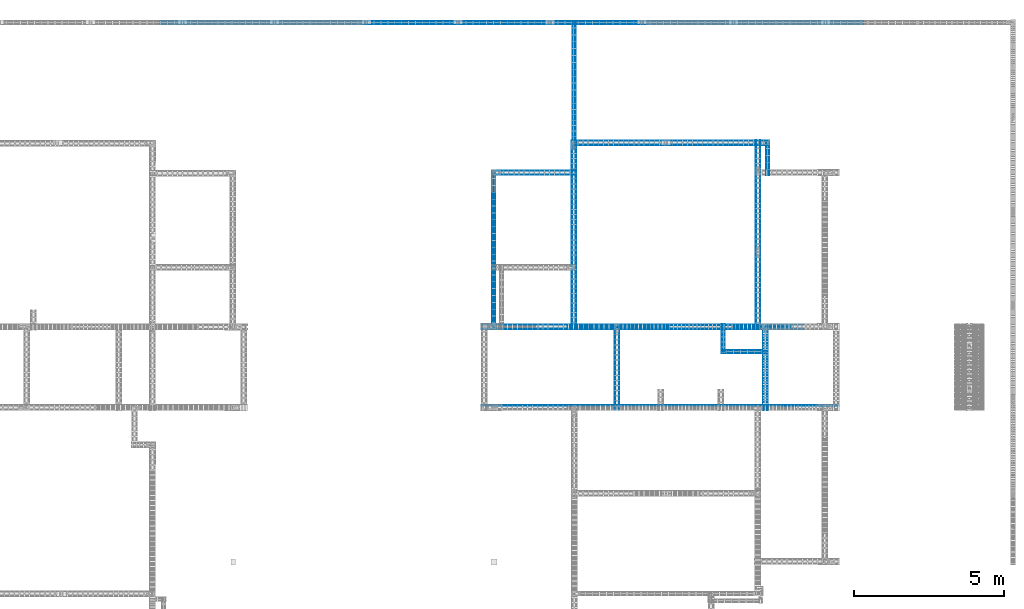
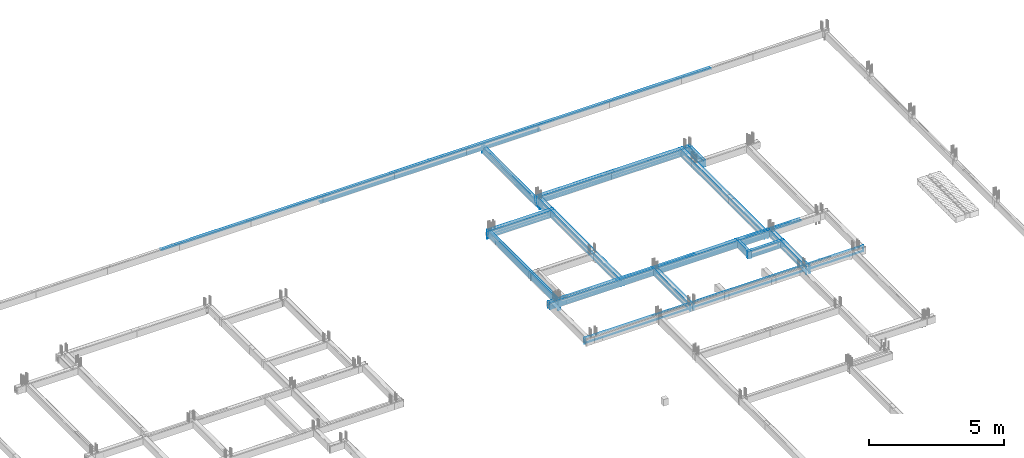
# One storey, part 15 of 150: 62 reinforcing bars.
"""IFC4 building model written with IfcOpenShell, lengths in centimetres."""

from ifc_helpers import new_model, entity, si_unit, derived_unit, frame, origin_with_axes, place, context, project, spatial, element, save


model = new_model("IFC4")

# Units and contexts
model_context = context("Model", 3, precision=1e-05, world=origin_with_axes(), identifier="Body")
ifc_project = project(units=[si_unit("LENGTHUNIT", "METRE", prefix="CENTI"), si_unit("VOLUMEUNIT", "CUBIC_METRE"), si_unit("AREAUNIT", "SQUARE_METRE"), si_unit("POWERUNIT", "WATT"), si_unit("LUMINOUSFLUXUNIT", "LUMEN"), si_unit("ELECTRICCURRENTUNIT", "AMPERE"), si_unit("PRESSUREUNIT", "PASCAL", prefix="KILO"), si_unit("MASSUNIT", "GRAM", prefix="KILO"), si_unit("PLANEANGLEUNIT", "RADIAN"), derived_unit("VOLUMETRICFLOWRATEUNIT", [(si_unit("LENGTHUNIT", "METRE"), 3), (si_unit("TIMEUNIT", "SECOND"), -1)])], contexts=[model_context])

# Site, building, storey
site_placement = place(None, frame((-4000.0, 0.0, 0.0), z_axis=(0.0, 0.0, 1.0), x_axis=(1.0, 0.0, 0.0)))
site = spatial("IfcSite", under=ifc_project, at=site_placement, Name="PADRÃO")
building_placement = place(site_placement, frame((0.0, 0.0, -14.0)))
building = spatial("IfcBuilding", under=site, at=building_placement, Name="CRECHE PRÉ-ESCOLA TIPO 2")
placement = place(building_placement, origin_with_axes())
storey_placement = place(placement, frame((0.0, 0.0, 30.0), z_axis=(0.0, 0.0, 1.0), x_axis=(1.0, 0.0, 0.0)))
storey = spatial("IfcBuildingStorey", under=building, at=storey_placement, Name="VIGA BALDRAME", CompositionType="ELEMENT", Elevation=16.0)

# Reinforcing bars
for number, where, z_axis, x_axis, name in (
    (1, (2293.84292004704, 4491.1, -26.7), (0.0, 0.0, 1.0), (1.0, 0.0, 0.0), "V101 - Longitudinal inferior"),
    (2, (2293.84292004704, 4481.9, -26.7), (0.0, 0.0, 1.0), (1.0, 0.0, 0.0), "V101 - Longitudinal inferior"),
):
    element("IfcReinforcingBar", number, at=place(storey_placement, frame(where, z_axis=z_axis, x_axis=x_axis)), inside=storey, Name=name, BarLength=0.0, CrossSectionArea=5.0265482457e-05, NominalDiameter=0.8, PredefinedType="MAIN", context=model_context, shape_type="AdvancedSweptSolid", body=[
        entity("IfcSweptDiskSolid", entity("IfcCompositeCurve", [entity("IfcCompositeCurveSegment", "CONTINUOUS", True, entity("IfcPolyline", [entity("IfcCartesianPoint", [-468.842920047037, 0.0, -0.4]), entity("IfcCartesianPoint", [468.842920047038, 0.0, -0.4])]))], False), 0.4),
    ])
for number, where, z_axis, x_axis, name in (
    (3, (2891.5, 4481.9, -2.5), (0.0, 0.0, 1.0), (1.0, 0.0, 0.0), "V101 - Longitudinal superior"),
    (4, (1742.5, 4491.1, -2.5), (0.0, 0.0, 1.0), (1.0, 0.0, 0.0), "V101 - Longitudinal superior"),
    (5, (1742.5, 4481.9, -2.5), (0.0, 0.0, 1.0), (1.0, 0.0, 0.0), "V101 - Longitudinal superior"),
    (6, (2891.5, 4491.1, -2.5), (0.0, 0.0, 1.0), (1.0, 0.0, 0.0), "V101 - Longitudinal superior"),
):
    element("IfcReinforcingBar", number, at=place(storey_placement, frame(where, z_axis=z_axis, x_axis=x_axis)), inside=storey, Name=name, BarLength=0.0, CrossSectionArea=5.0265482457e-05, NominalDiameter=0.8, PredefinedType="MAIN", context=model_context, shape_type="AdvancedSweptSolid", body=[
        entity("IfcSweptDiskSolid", entity("IfcCompositeCurve", [entity("IfcCompositeCurveSegment", "CONTINUOUS", True, entity("IfcPolyline", [entity("IfcCartesianPoint", [-600.0, 0.0, -0.4]), entity("IfcCartesianPoint", [600.0, 0.0, -0.4])]))], False), 0.4),
    ])
for number, where, z_axis, x_axis, name in (
    (7, (2847.465, 4092.02, -26.5), (0.0, 0.0, 1.0), (1.0, 0.0, 0.0), "V103 - Longitudinal inferior"),
    (8, (2847.465, 4078.02, -26.5), (0.0, 0.0, 1.0), (1.0, 0.0, 0.0), "V103 - Longitudinal inferior"),
):
    element("IfcReinforcingBar", number, at=place(storey_placement, frame(where, z_axis=z_axis, x_axis=x_axis)), inside=storey, Name=name, BarLength=0.0, CrossSectionArea=7.853981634e-05, NominalDiameter=1.0, PredefinedType="MAIN", context=model_context, shape_type="AdvancedSweptSolid", body=[
        entity("IfcSweptDiskSolid", entity("IfcCompositeCurve", [entity("IfcCompositeCurveSegment", "CONTINUOUS", True, entity("IfcPolyline", [entity("IfcCartesianPoint", [-329.965, 0.0, -0.5]), entity("IfcCartesianPoint", [329.965, 0.0, -0.5])]))], False), 0.5),
    ])
for number, where, z_axis, x_axis, name in (
    (9, (2847.465, 4078.02, -2.49531217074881), (0.0, 0.0, 1.0), (1.0, 0.0, 0.0), "V103 - Longitudinal superior"),
    (10, (2847.465, 4092.02, -2.49531217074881), (0.0, 0.0, 1.0), (1.0, 0.0, 0.0), "V103 - Longitudinal superior"),
):
    element("IfcReinforcingBar", number, at=place(storey_placement, frame(where, z_axis=z_axis, x_axis=x_axis)), inside=storey, Name=name, BarLength=0.0, CrossSectionArea=7.853981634e-05, NominalDiameter=1.0, PredefinedType="MAIN", context=model_context, shape_type="AdvancedSweptSolid", body=[
        entity("IfcSweptDiskSolid", entity("IfcCompositeCurve", [entity("IfcCompositeCurveSegment", "CONTINUOUS", True, entity("IfcPolyline", [entity("IfcCartesianPoint", [-329.465, 0.0, -19.6170129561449]), entity("IfcCartesianPoint", [-329.465, 0.0, -0.504687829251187])])), entity("IfcCompositeCurveSegment", "CONTINUOUS", True, entity("IfcPolyline", [entity("IfcCartesianPoint", [-329.465, 0.0, -0.504687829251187]), entity("IfcCartesianPoint", [329.465, 0.0, -0.504687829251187])])), entity("IfcCompositeCurveSegment", "CONTINUOUS", True, entity("IfcPolyline", [entity("IfcCartesianPoint", [329.465, 0.0, -0.504687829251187]), entity("IfcCartesianPoint", [329.465, 0.0, -10.5046878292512])]))], False), 0.5),
    ])
for number, where, z_axis, x_axis, name in (
    (11, (2393.145, 3992.1, -26.7), (0.0, 0.0, 1.0), (1.0, 0.0, 0.0), "V106 - Longitudinal inferior"),
    (12, (2393.145, 3977.9, -26.7), (0.0, 0.0, 1.0), (1.0, 0.0, 0.0), "V106 - Longitudinal inferior"),
):
    element("IfcReinforcingBar", number, at=place(storey_placement, frame(where, z_axis=z_axis, x_axis=x_axis)), inside=storey, Name=name, BarLength=0.0, CrossSectionArea=5.0265482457e-05, NominalDiameter=0.8, PredefinedType="MAIN", context=model_context, shape_type="AdvancedSweptSolid", body=[
        entity("IfcSweptDiskSolid", entity("IfcCompositeCurve", [entity("IfcCompositeCurveSegment", "CONTINUOUS", True, entity("IfcPolyline", [entity("IfcCartesianPoint", [-139.385, 0.0, -0.4]), entity("IfcCartesianPoint", [139.385, 0.0, -0.4])]))], False), 0.4),
    ])
for number, where, z_axis, x_axis, name in (
    (13, (2393.145, 3992.0, -2.49531217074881), (0.0, 0.0, 1.0), (1.0, 0.0, 0.0), "V106 - Longitudinal superior"),
    (14, (2393.145, 3978.0, -2.49531217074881), (0.0, 0.0, 1.0), (1.0, 0.0, 0.0), "V106 - Longitudinal superior"),
):
    element("IfcReinforcingBar", number, at=place(storey_placement, frame(where, z_axis=z_axis, x_axis=x_axis)), inside=storey, Name=name, BarLength=0.0, CrossSectionArea=7.853981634e-05, NominalDiameter=1.0, PredefinedType="MAIN", context=model_context, shape_type="AdvancedSweptSolid", body=[
        entity("IfcSweptDiskSolid", entity("IfcCompositeCurve", [entity("IfcCompositeCurveSegment", "CONTINUOUS", True, entity("IfcPolyline", [entity("IfcCartesianPoint", [-138.885, 0.0, -12.0046878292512]), entity("IfcCartesianPoint", [-138.885, 0.0, -0.504687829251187])])), entity("IfcCompositeCurveSegment", "CONTINUOUS", True, entity("IfcPolyline", [entity("IfcCartesianPoint", [-138.885, 0.0, -0.504687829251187]), entity("IfcCartesianPoint", [138.885, 0.0, -0.504687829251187])])), entity("IfcCompositeCurveSegment", "CONTINUOUS", True, entity("IfcPolyline", [entity("IfcCartesianPoint", [138.885, 0.0, -0.504687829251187]), entity("IfcCartesianPoint", [138.885, 0.0, -26.5046878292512])]))], False), 0.5),
    ])
for number, where, z_axis, x_axis, name in (
    (15, (2449.14707010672, 3476.895, -2.475), (0.0, 0.0, 1.0), (1.0, 0.0, 0.0), "V111 - Longitudinal inferior"),
    (16, (2449.14707010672, 3463.145, -2.475), (0.0, 0.0, 1.0), (1.0, 0.0, 0.0), "V111 - Longitudinal inferior"),
):
    element("IfcReinforcingBar", number, at=place(storey_placement, frame(where, z_axis=z_axis, x_axis=x_axis)), inside=storey, Name=name, BarLength=0.0, CrossSectionArea=0.000122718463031, NominalDiameter=1.25, PredefinedType="MAIN", context=model_context, shape_type="AdvancedSweptSolid", body=[
        entity("IfcSweptDiskSolid", entity("IfcCompositeCurve", [entity("IfcCompositeCurveSegment", "CONTINUOUS", True, entity("IfcPolyline", [entity("IfcCartesianPoint", [-231.992070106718, 0.0, 0.0]), entity("IfcCartesianPoint", [-231.992070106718, 0.0, -24.4])])), entity("IfcCompositeCurveSegment", "CONTINUOUS", True, entity("IfcPolyline", [entity("IfcCartesianPoint", [-231.992070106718, 0.0, -24.4]), entity("IfcCartesianPoint", [232.622929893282, 0.0, -24.4])]))], False), 0.625),
    ])
for number, where, z_axis, x_axis, name in (
    (17, (2915.75015250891, 3476.715, -25.9), (0.0, 0.0, 1.0), (1.0, 0.0, 0.0), "V111 - Longitudinal inferior"),
    (18, (2915.74988207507, 3463.315, -25.9), (0.0, 0.0, 1.0), (1.0, 0.0, 0.0), "V111 - Longitudinal inferior"),
):
    element("IfcReinforcingBar", number, at=place(storey_placement, frame(where, z_axis=z_axis, x_axis=x_axis)), inside=storey, Name=name, BarLength=0.0, CrossSectionArea=0.00020106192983, NominalDiameter=1.6, PredefinedType="MAIN", context=model_context, shape_type="AdvancedSweptSolid", body=[
        entity("IfcSweptDiskSolid", entity("IfcCompositeCurve", [entity("IfcCompositeCurveSegment", "CONTINUOUS", True, entity("IfcPolyline", [entity("IfcCartesianPoint", [-260.750017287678, 0.005415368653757, -0.8]), entity("IfcCartesianPoint", [260.749984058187, -0.005415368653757, -0.8])]))], False), 0.8),
    ])
for number, where, z_axis, x_axis, name in (
    (19, (2753.13707083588, 3476.895, -2.49414021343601), (0.0, 0.0, 1.0), (1.0, 0.0, 0.0), "V111 - Longitudinal superior"),
    (20, (2753.13707083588, 3463.145, -2.49414021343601), (0.0, 0.0, 1.0), (1.0, 0.0, 0.0), "V111 - Longitudinal superior"),
):
    element("IfcReinforcingBar", number, at=place(storey_placement, frame(where, z_axis=z_axis, x_axis=x_axis)), inside=storey, Name=name, BarLength=0.0, CrossSectionArea=0.000122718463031, NominalDiameter=1.25, PredefinedType="MAIN", context=model_context, shape_type="AdvancedSweptSolid", body=[
        entity("IfcSweptDiskSolid", entity("IfcCompositeCurve", [entity("IfcCompositeCurveSegment", "CONTINUOUS", True, entity("IfcPolyline", [entity("IfcCartesianPoint", [-535.982070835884, 0.0, -26.630859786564]), entity("IfcCartesianPoint", [-535.982070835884, 0.0, -0.630859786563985])])), entity("IfcCompositeCurveSegment", "CONTINUOUS", True, entity("IfcPolyline", [entity("IfcCartesianPoint", [-535.982070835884, 0.0, -0.630859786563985]), entity("IfcCartesianPoint", [536.612930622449, 0.0, -0.630859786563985])]))], False), 0.625),
    ])
reinforcing_bar_1_placement = place(storey_placement, frame((3154.27000145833, 3470.02, -2.5), z_axis=(0.0, 0.0, 1.0), x_axis=(1.0, 0.0, 0.0)))
element("IfcReinforcingBar", 21, at=reinforcing_bar_1_placement, inside=storey, Name="V111 - Longitudinal superior", BarLength=0.0, CrossSectionArea=0.000122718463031, NominalDiameter=1.25, PredefinedType="MAIN", context=model_context, shape_type="AdvancedSweptSolid", body=[
    entity("IfcSweptDiskSolid", entity("IfcCompositeCurve", [entity("IfcCompositeCurveSegment", "CONTINUOUS", True, entity("IfcPolyline", [entity("IfcCartesianPoint", [-95.0, 0.0, -0.625]), entity("IfcCartesianPoint", [95.0, 0.0, -0.625])]))], False), 0.625),
])
reinforcing_bar_2_placement = place(storey_placement, frame((2671.27, 3470.02, -2.5), z_axis=(0.0, 0.0, 1.0), x_axis=(1.0, 0.0, 0.0)))
element("IfcReinforcingBar", 22, at=reinforcing_bar_2_placement, inside=storey, Name="V111 - Longitudinal superior", BarLength=0.0, CrossSectionArea=0.000122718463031, NominalDiameter=1.25, PredefinedType="MAIN", context=model_context, shape_type="AdvancedSweptSolid", body=[
    entity("IfcSweptDiskSolid", entity("IfcCompositeCurve", [entity("IfcCompositeCurveSegment", "CONTINUOUS", True, entity("IfcPolyline", [entity("IfcCartesianPoint", [-167.5, 0.0, -0.625]), entity("IfcCartesianPoint", [167.5, 0.0, -0.625])]))], False), 0.625),
])
for number, where, z_axis, x_axis, name in (
    (23, (3094.9981248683, 3391.12, -17.1), (0.0, 0.0, 1.0), (1.0, 0.0, 0.0), "V112 - Longitudinal inferior"),
    (24, (3094.9981248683, 3381.92, -17.1), (0.0, 0.0, 1.0), (1.0, 0.0, 0.0), "V112 - Longitudinal inferior"),
):
    element("IfcReinforcingBar", number, at=place(storey_placement, frame(where, z_axis=z_axis, x_axis=x_axis)), inside=storey, Name=name, BarLength=0.0, CrossSectionArea=5.0265482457e-05, NominalDiameter=0.8, PredefinedType="MAIN", context=model_context, shape_type="AdvancedSweptSolid", body=[
        entity("IfcSweptDiskSolid", entity("IfcCompositeCurve", [entity("IfcCompositeCurveSegment", "CONTINUOUS", True, entity("IfcPolyline", [entity("IfcCartesianPoint", [-76.5981248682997, 0.0, 0.0]), entity("IfcCartesianPoint", [-76.5981248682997, 0.0, -10.0])])), entity("IfcCompositeCurveSegment", "CONTINUOUS", True, entity("IfcPolyline", [entity("IfcCartesianPoint", [-76.5981248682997, 0.0, -10.0]), entity("IfcCartesianPoint", [77.0018751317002, 0.0, -10.0])]))], False), 0.4),
    ])
for number, where, z_axis, x_axis, name in (
    (25, (3095.0, 3391.12, -2.49624973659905), (0.0, 0.0, 1.0), (1.0, 0.0, 0.0), "V112 - Longitudinal superior"),
    (26, (3095.0, 3381.92, -2.49624973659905), (0.0, 0.0, 1.0), (1.0, 0.0, 0.0), "V112 - Longitudinal superior"),
):
    element("IfcReinforcingBar", number, at=place(storey_placement, frame(where, z_axis=z_axis, x_axis=x_axis)), inside=storey, Name=name, BarLength=0.0, CrossSectionArea=5.0265482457e-05, NominalDiameter=0.8, PredefinedType="MAIN", context=model_context, shape_type="AdvancedSweptSolid", body=[
        entity("IfcSweptDiskSolid", entity("IfcCompositeCurve", [entity("IfcCompositeCurveSegment", "CONTINUOUS", True, entity("IfcPolyline", [entity("IfcCartesianPoint", [-76.6, 0.0, -26.403750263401]), entity("IfcCartesianPoint", [-76.6, 0.0, -0.403750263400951])])), entity("IfcCompositeCurveSegment", "CONTINUOUS", True, entity("IfcPolyline", [entity("IfcCartesianPoint", [-76.6, 0.0, -0.403750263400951]), entity("IfcCartesianPoint", [76.6, 0.0, -0.403750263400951])])), entity("IfcCompositeCurveSegment", "CONTINUOUS", True, entity("IfcPolyline", [entity("IfcCartesianPoint", [76.6, 0.0, -0.403750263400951]), entity("IfcCartesianPoint", [76.6, 0.0, -20.3860867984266])]))], False), 0.4),
    ])
reinforcing_bar_3_placement = place(storey_placement, frame((2753.13707094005, 3206.895, -11.5851398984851), z_axis=(0.0, 0.0, 1.0), x_axis=(1.0, 0.0, 0.0)))
element("IfcReinforcingBar", 27, at=reinforcing_bar_3_placement, inside=storey, Name="V114 - Longitudinal inferior", BarLength=0.0, CrossSectionArea=0.000122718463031, NominalDiameter=1.25, PredefinedType="MAIN", context=model_context, shape_type="AdvancedSweptSolid", body=[
    entity("IfcSweptDiskSolid", entity("IfcCompositeCurve", [entity("IfcCompositeCurveSegment", "CONTINUOUS", True, entity("IfcPolyline", [entity("IfcCartesianPoint", [-535.982070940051, 0.0, 0.0]), entity("IfcCartesianPoint", [-535.982070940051, 0.0, -15.2898601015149])])), entity("IfcCompositeCurveSegment", "CONTINUOUS", True, entity("IfcPolyline", [entity("IfcCartesianPoint", [-535.982070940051, 0.0, -15.2898601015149]), entity("IfcCartesianPoint", [536.612930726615, 0.0, -15.2898601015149])]))], False), 0.625),
])
reinforcing_bar_4_placement = place(storey_placement, frame((3334.25293155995, 3206.895, -11.5851398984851), z_axis=(0.0, 0.0, 1.0), x_axis=(1.0, 0.0, 0.0)))
element("IfcReinforcingBar", 28, at=reinforcing_bar_4_placement, inside=storey, Name="V114 - Longitudinal inferior", BarLength=0.0, CrossSectionArea=0.000122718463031, NominalDiameter=1.25, PredefinedType="MAIN", context=model_context, shape_type="AdvancedSweptSolid", body=[
    entity("IfcSweptDiskSolid", entity("IfcCompositeCurve", [entity("IfcCompositeCurveSegment", "CONTINUOUS", True, entity("IfcPolyline", [entity("IfcCartesianPoint", [-75.5029298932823, 0.0, -15.2898601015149]), entity("IfcCartesianPoint", [74.8720701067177, 0.0, -15.2898601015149])])), entity("IfcCompositeCurveSegment", "CONTINUOUS", True, entity("IfcPolyline", [entity("IfcCartesianPoint", [74.8720701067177, 0.0, -15.2898601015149]), entity("IfcCartesianPoint", [74.8720701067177, 0.0, 0.0])]))], False), 0.625),
])
reinforcing_bar_5_placement = place(storey_placement, frame((2753.13765691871, 3207.02, -2.49531217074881), z_axis=(0.0, 0.0, 1.0), x_axis=(1.0, 0.0, 0.0)))
element("IfcReinforcingBar", 29, at=reinforcing_bar_5_placement, inside=storey, Name="V114 - Longitudinal superior", BarLength=0.0, CrossSectionArea=7.853981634e-05, NominalDiameter=1.0, PredefinedType="MAIN", context=model_context, shape_type="AdvancedSweptSolid", body=[
    entity("IfcSweptDiskSolid", entity("IfcCompositeCurve", [entity("IfcCompositeCurveSegment", "CONTINUOUS", True, entity("IfcPolyline", [entity("IfcCartesianPoint", [-536.107656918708, 0.0, -26.5046878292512]), entity("IfcCartesianPoint", [-536.107656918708, 0.0, -0.504687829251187])])), entity("IfcCompositeCurveSegment", "CONTINUOUS", True, entity("IfcPolyline", [entity("IfcCartesianPoint", [-536.107656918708, 0.0, -0.504687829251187]), entity("IfcCartesianPoint", [536.612344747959, 0.0, -0.504687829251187])]))], False), 0.5),
])
reinforcing_bar_6_placement = place(storey_placement, frame((3316.75234558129, 3207.02, -2.49531217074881), z_axis=(0.0, 0.0, 1.0), x_axis=(1.0, 0.0, 0.0)))
element("IfcReinforcingBar", 30, at=reinforcing_bar_6_placement, inside=storey, Name="V114 - Longitudinal superior", BarLength=0.0, CrossSectionArea=7.853981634e-05, NominalDiameter=1.0, PredefinedType="MAIN", context=model_context, shape_type="AdvancedSweptSolid", body=[
    entity("IfcSweptDiskSolid", entity("IfcCompositeCurve", [entity("IfcCompositeCurveSegment", "CONTINUOUS", True, entity("IfcPolyline", [entity("IfcCartesianPoint", [-93.0023439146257, 0.0, -0.504687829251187]), entity("IfcCartesianPoint", [92.4976560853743, 0.0, -0.504687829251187])])), entity("IfcCompositeCurveSegment", "CONTINUOUS", True, entity("IfcPolyline", [entity("IfcCartesianPoint", [92.4976560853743, 0.0, -0.504687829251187]), entity("IfcCartesianPoint", [92.4976560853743, 0.0, -26.5046878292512])]))], False), 0.5),
])
for number, where, z_axis, x_axis, name in (
    (31, (2252.06, 3727.51, -7.7), (0.0, 0.0, 1.0), (1.0, 0.0, 0.0), "V193 - Longitudinal inferior"),
    (32, (2260.46, 3727.51, -7.7), (0.0, 0.0, 1.0), (1.0, 0.0, 0.0), "V193 - Longitudinal inferior"),
):
    element("IfcReinforcingBar", number, at=place(storey_placement, frame(where, z_axis=z_axis, x_axis=x_axis)), inside=storey, Name=name, BarLength=0.0, CrossSectionArea=0.00020106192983, NominalDiameter=1.6, PredefinedType="MAIN", context=model_context, shape_type="AdvancedSweptSolid", body=[
        entity("IfcSweptDiskSolid", entity("IfcCompositeCurve", [entity("IfcCompositeCurveSegment", "CONTINUOUS", True, entity("IfcPolyline", [entity("IfcCartesianPoint", [0.0, -263.19, 0.0]), entity("IfcCartesianPoint", [0.0, -263.19, -19.0])])), entity("IfcCompositeCurveSegment", "CONTINUOUS", True, entity("IfcPolyline", [entity("IfcCartesianPoint", [0.0, -263.19, -19.0]), entity("IfcCartesianPoint", [0.0, 263.19, -19.0])])), entity("IfcCompositeCurveSegment", "CONTINUOUS", True, entity("IfcPolyline", [entity("IfcCartesianPoint", [0.0, 263.19, -19.0]), entity("IfcCartesianPoint", [0.0, 263.19, 0.0])]))], False), 0.8),
    ])
for number, where, z_axis, x_axis, name in (
    (33, (2260.46, 3727.51, -2.4924994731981), (0.0, 0.0, 1.0), (1.0, 0.0, 0.0), "V193 - Longitudinal superior"),
    (34, (2252.06, 3727.51, -2.4924994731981), (0.0, 0.0, 1.0), (1.0, 0.0, 0.0), "V193 - Longitudinal superior"),
):
    element("IfcReinforcingBar", number, at=place(storey_placement, frame(where, z_axis=z_axis, x_axis=x_axis)), inside=storey, Name=name, BarLength=0.0, CrossSectionArea=0.00020106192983, NominalDiameter=1.6, PredefinedType="MAIN", context=model_context, shape_type="AdvancedSweptSolid", body=[
        entity("IfcSweptDiskSolid", entity("IfcCompositeCurve", [entity("IfcCompositeCurveSegment", "CONTINUOUS", True, entity("IfcPolyline", [entity("IfcCartesianPoint", [0.0, -263.19, -44.0227501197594]), entity("IfcCartesianPoint", [0.0, -263.19, -0.807500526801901])])), entity("IfcCompositeCurveSegment", "CONTINUOUS", True, entity("IfcPolyline", [entity("IfcCartesianPoint", [0.0, -263.19, -0.807500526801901]), entity("IfcCartesianPoint", [0.0, 263.19, -0.807500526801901])])), entity("IfcCompositeCurveSegment", "CONTINUOUS", True, entity("IfcPolyline", [entity("IfcCartesianPoint", [0.0, 263.19, -0.807500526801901]), entity("IfcCartesianPoint", [0.0, 263.19, -39.0000942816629])]))], False), 0.8),
    ])
for number, where, z_axis, x_axis, name in (
    (35, (2517.655, 3776.02, -26.25), (0.0, 0.0, 1.0), (1.0, 0.0, 0.0), "V199 - Longitudinal inferior"),
    (36, (2531.405, 3776.02, -26.25), (0.0, 0.0, 1.0), (1.0, 0.0, 0.0), "V199 - Longitudinal inferior"),
):
    element("IfcReinforcingBar", number, at=place(storey_placement, frame(where, z_axis=z_axis, x_axis=x_axis)), inside=storey, Name=name, BarLength=0.0, CrossSectionArea=0.000122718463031, NominalDiameter=1.25, PredefinedType="MAIN", context=model_context, shape_type="AdvancedSweptSolid", body=[
        entity("IfcSweptDiskSolid", entity("IfcCompositeCurve", [entity("IfcCompositeCurveSegment", "CONTINUOUS", True, entity("IfcPolyline", [entity("IfcCartesianPoint", [0.0, -314.0, -0.625]), entity("IfcCartesianPoint", [0.0, 314.0, -0.625])]))], False), 0.625),
    ])
for number, where, z_axis, x_axis, name in (
    (37, (2517.655, 3776.02, -2.49414021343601), (0.0, 0.0, 1.0), (1.0, 0.0, 0.0), "V199 - Longitudinal superior"),
    (38, (2531.405, 3776.02, -2.49414021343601), (0.0, 0.0, 1.0), (1.0, 0.0, 0.0), "V199 - Longitudinal superior"),
):
    element("IfcReinforcingBar", number, at=place(storey_placement, frame(where, z_axis=z_axis, x_axis=x_axis)), inside=storey, Name=name, BarLength=0.0, CrossSectionArea=0.000122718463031, NominalDiameter=1.25, PredefinedType="MAIN", context=model_context, shape_type="AdvancedSweptSolid", body=[
        entity("IfcSweptDiskSolid", entity("IfcCompositeCurve", [entity("IfcCompositeCurveSegment", "CONTINUOUS", True, entity("IfcPolyline", [entity("IfcCartesianPoint", [0.0, -313.375, -26.630859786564]), entity("IfcCartesianPoint", [0.0, -313.375, -0.630859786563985])])), entity("IfcCompositeCurveSegment", "CONTINUOUS", True, entity("IfcPolyline", [entity("IfcCartesianPoint", [0.0, -313.375, -0.630859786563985]), entity("IfcCartesianPoint", [0.0, 313.375, -0.630859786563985])])), entity("IfcCompositeCurveSegment", "CONTINUOUS", True, entity("IfcPolyline", [entity("IfcCartesianPoint", [0.0, 313.375, -0.630859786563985]), entity("IfcCartesianPoint", [0.0, 313.375, -15.005859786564])]))], False), 0.625),
    ])
for number, where, z_axis, x_axis, name in (
    (39, (2529.03, 4278.01, -46.5), (0.0, 0.0, 1.0), (1.0, 0.0, 0.0), "V200 - Longitudinal inferior"),
    (40, (2520.03, 4278.01, -46.5), (0.0, 0.0, 1.0), (1.0, 0.0, 0.0), "V200 - Longitudinal inferior"),
):
    element("IfcReinforcingBar", number, at=place(storey_placement, frame(where, z_axis=z_axis, x_axis=x_axis)), inside=storey, Name=name, BarLength=0.0, CrossSectionArea=7.853981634e-05, NominalDiameter=1.0, PredefinedType="MAIN", context=model_context, shape_type="AdvancedSweptSolid", body=[
        entity("IfcSweptDiskSolid", entity("IfcCompositeCurve", [entity("IfcCompositeCurveSegment", "CONTINUOUS", True, entity("IfcPolyline", [entity("IfcCartesianPoint", [0.0, -213.99, -0.5]), entity("IfcCartesianPoint", [0.0, 213.99, -0.5])]))], False), 0.5),
    ])
for number, where, z_axis, x_axis, name in (
    (41, (2520.03, 4278.01, -22.4953121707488), (0.0, 0.0, 1.0), (1.0, 0.0, 0.0), "V200 - Longitudinal superior"),
    (42, (2529.03, 4278.01, -22.4953121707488), (0.0, 0.0, 1.0), (1.0, 0.0, 0.0), "V200 - Longitudinal superior"),
):
    element("IfcReinforcingBar", number, at=place(storey_placement, frame(where, z_axis=z_axis, x_axis=x_axis)), inside=storey, Name=name, BarLength=0.0, CrossSectionArea=7.853981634e-05, NominalDiameter=1.0, PredefinedType="MAIN", context=model_context, shape_type="AdvancedSweptSolid", body=[
        entity("IfcSweptDiskSolid", entity("IfcCompositeCurve", [entity("IfcCompositeCurveSegment", "CONTINUOUS", True, entity("IfcPolyline", [entity("IfcCartesianPoint", [0.0, -213.49, -12.0046878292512]), entity("IfcCartesianPoint", [0.0, -213.49, -0.504687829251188])])), entity("IfcCompositeCurveSegment", "CONTINUOUS", True, entity("IfcPolyline", [entity("IfcCartesianPoint", [0.0, -213.49, -0.504687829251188]), entity("IfcCartesianPoint", [0.0, 213.49, -0.504687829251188])])), entity("IfcCompositeCurveSegment", "CONTINUOUS", True, entity("IfcPolyline", [entity("IfcCartesianPoint", [0.0, 213.49, -0.504687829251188]), entity("IfcCartesianPoint", [0.0, 213.49, -26.5046878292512])]))], False), 0.5),
    ])
for number, where, z_axis, x_axis, name in (
    (43, (2675.1, 3335.05, -26.7), (0.0, 0.0, 1.0), (1.0, 0.0, 0.0), "V202 - Longitudinal inferior"),
    (44, (2660.9, 3335.05, -26.7), (0.0, 0.0, 1.0), (1.0, 0.0, 0.0), "V202 - Longitudinal inferior"),
):
    element("IfcReinforcingBar", number, at=place(storey_placement, frame(where, z_axis=z_axis, x_axis=x_axis)), inside=storey, Name=name, BarLength=0.0, CrossSectionArea=5.0265482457e-05, NominalDiameter=0.8, PredefinedType="MAIN", context=model_context, shape_type="AdvancedSweptSolid", body=[
        entity("IfcSweptDiskSolid", entity("IfcCompositeCurve", [entity("IfcCompositeCurveSegment", "CONTINUOUS", True, entity("IfcPolyline", [entity("IfcCartesianPoint", [0.0, -142.53, -0.4]), entity("IfcCartesianPoint", [0.0, 142.53, -0.4])]))], False), 0.4),
    ])
for number, where, z_axis, x_axis, name in (
    (45, (2675.1, 3335.05, -2.49624973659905), (0.0, 0.0, 1.0), (1.0, 0.0, 0.0), "V202 - Longitudinal superior"),
    (46, (2660.9, 3335.05, -2.49624973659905), (0.0, 0.0, 1.0), (1.0, 0.0, 0.0), "V202 - Longitudinal superior"),
):
    element("IfcReinforcingBar", number, at=place(storey_placement, frame(where, z_axis=z_axis, x_axis=x_axis)), inside=storey, Name=name, BarLength=0.0, CrossSectionArea=5.0265482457e-05, NominalDiameter=0.8, PredefinedType="MAIN", context=model_context, shape_type="AdvancedSweptSolid", body=[
        entity("IfcSweptDiskSolid", entity("IfcCompositeCurve", [entity("IfcCompositeCurveSegment", "CONTINUOUS", True, entity("IfcPolyline", [entity("IfcCartesianPoint", [0.0, -142.13, -24.2941566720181]), entity("IfcCartesianPoint", [0.0, -142.13, -0.403750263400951])])), entity("IfcCompositeCurveSegment", "CONTINUOUS", True, entity("IfcPolyline", [entity("IfcCartesianPoint", [0.0, -142.13, -0.403750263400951]), entity("IfcCartesianPoint", [0.0, 142.13, -0.403750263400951])])), entity("IfcCompositeCurveSegment", "CONTINUOUS", True, entity("IfcPolyline", [entity("IfcCartesianPoint", [0.0, 142.13, -0.403750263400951]), entity("IfcCartesianPoint", [0.0, 142.13, -10.403750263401])]))], False), 0.4),
    ])
for number, where, z_axis, x_axis, name in (
    (47, (3028.1, 3429.5181248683, -2.7), (0.0, 0.0, 1.0), (1.0, 0.0, 0.0), "V214 - Longitudinal inferior"),
    (48, (3018.9, 3429.5181248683, -2.7), (0.0, 0.0, 1.0), (1.0, 0.0, 0.0), "V214 - Longitudinal inferior"),
):
    element("IfcReinforcingBar", number, at=place(storey_placement, frame(where, z_axis=z_axis, x_axis=x_axis)), inside=storey, Name=name, BarLength=0.0, CrossSectionArea=5.0265482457e-05, NominalDiameter=0.8, PredefinedType="MAIN", context=model_context, shape_type="AdvancedSweptSolid", body=[
        entity("IfcSweptDiskSolid", entity("IfcCompositeCurve", [entity("IfcCompositeCurveSegment", "CONTINUOUS", True, entity("IfcPolyline", [entity("IfcCartesianPoint", [0.0, -48.0981248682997, 0.0]), entity("IfcCartesianPoint", [0.0, -48.0981248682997, -24.4])])), entity("IfcCompositeCurveSegment", "CONTINUOUS", True, entity("IfcPolyline", [entity("IfcCartesianPoint", [0.0, -48.0981248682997, -24.4]), entity("IfcCartesianPoint", [0.0, 48.5018751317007, -24.4])]))], False), 0.4),
    ])
for number, where, z_axis, x_axis, name in (
    (49, (3028.1, 3429.52, -2.49624973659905), (0.0, 0.0, 1.0), (1.0, 0.0, 0.0), "V214 - Longitudinal superior"),
    (50, (3018.9, 3429.52, -2.49624973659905), (0.0, 0.0, 1.0), (1.0, 0.0, 0.0), "V214 - Longitudinal superior"),
):
    element("IfcReinforcingBar", number, at=place(storey_placement, frame(where, z_axis=z_axis, x_axis=x_axis)), inside=storey, Name=name, BarLength=0.0, CrossSectionArea=5.0265482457e-05, NominalDiameter=0.8, PredefinedType="MAIN", context=model_context, shape_type="AdvancedSweptSolid", body=[
        entity("IfcSweptDiskSolid", entity("IfcCompositeCurve", [entity("IfcCompositeCurveSegment", "CONTINUOUS", True, entity("IfcPolyline", [entity("IfcCartesianPoint", [0.0, -48.1, -26.403750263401]), entity("IfcCartesianPoint", [0.0, -48.1, -0.403750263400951])])), entity("IfcCompositeCurveSegment", "CONTINUOUS", True, entity("IfcPolyline", [entity("IfcCartesianPoint", [0.0, -48.1, -0.403750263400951]), entity("IfcCartesianPoint", [0.0, 48.1, -0.403750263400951])])), entity("IfcCompositeCurveSegment", "CONTINUOUS", True, entity("IfcPolyline", [entity("IfcCartesianPoint", [0.0, 48.1, -0.403750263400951]), entity("IfcCartesianPoint", [0.0, 48.1, -26.3086621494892])]))], False), 0.4),
    ])
for number, where, z_axis, x_axis, name in (
    (51, (3157.125, 3334.8, -26.25), (0.0, 0.0, 1.0), (1.0, 0.0, 0.0), "V220 - Longitudinal inferior"),
    (52, (3170.875, 3334.8, -26.25), (0.0, 0.0, 1.0), (1.0, 0.0, 0.0), "V220 - Longitudinal inferior"),
):
    element("IfcReinforcingBar", number, at=place(storey_placement, frame(where, z_axis=z_axis, x_axis=x_axis)), inside=storey, Name=name, BarLength=0.0, CrossSectionArea=0.000122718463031, NominalDiameter=1.25, PredefinedType="MAIN", context=model_context, shape_type="AdvancedSweptSolid", body=[
        entity("IfcSweptDiskSolid", entity("IfcCompositeCurve", [entity("IfcCompositeCurveSegment", "CONTINUOUS", True, entity("IfcPolyline", [entity("IfcCartesianPoint", [0.0, -142.78, -0.625]), entity("IfcCartesianPoint", [0.0, 142.78, -0.625])]))], False), 0.625),
    ])
for number, where, z_axis, x_axis, name in (
    (53, (3171.0, 3334.8, -2.49531217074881), (0.0, 0.0, 1.0), (1.0, 0.0, 0.0), "V220 - Longitudinal superior"),
    (54, (3157.0, 3334.8, -2.49531217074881), (0.0, 0.0, 1.0), (1.0, 0.0, 0.0), "V220 - Longitudinal superior"),
):
    element("IfcReinforcingBar", number, at=place(storey_placement, frame(where, z_axis=z_axis, x_axis=x_axis)), inside=storey, Name=name, BarLength=0.0, CrossSectionArea=7.853981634e-05, NominalDiameter=1.0, PredefinedType="MAIN", context=model_context, shape_type="AdvancedSweptSolid", body=[
        entity("IfcSweptDiskSolid", entity("IfcCompositeCurve", [entity("IfcCompositeCurveSegment", "CONTINUOUS", True, entity("IfcPolyline", [entity("IfcCartesianPoint", [0.0, -142.28, -33.3512122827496]), entity("IfcCartesianPoint", [0.0, -142.28, -0.504687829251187])])), entity("IfcCompositeCurveSegment", "CONTINUOUS", True, entity("IfcPolyline", [entity("IfcCartesianPoint", [0.0, -142.28, -0.504687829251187]), entity("IfcCartesianPoint", [0.0, 142.28, -0.504687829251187])])), entity("IfcCompositeCurveSegment", "CONTINUOUS", True, entity("IfcPolyline", [entity("IfcCartesianPoint", [0.0, 142.28, -0.504687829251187]), entity("IfcCartesianPoint", [0.0, 142.28, -12.0046878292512])]))], False), 0.5),
    ])
for number, where, z_axis, x_axis, name in (
    (55, (3146.53, 3777.515, -26.7), (0.0, 0.0, 1.0), (1.0, 0.0, 0.0), "V221 - Longitudinal inferior"),
    (56, (3132.33, 3777.515, -26.7), (0.0, 0.0, 1.0), (1.0, 0.0, 0.0), "V221 - Longitudinal inferior"),
):
    element("IfcReinforcingBar", number, at=place(storey_placement, frame(where, z_axis=z_axis, x_axis=x_axis)), inside=storey, Name=name, BarLength=0.0, CrossSectionArea=5.0265482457e-05, NominalDiameter=0.8, PredefinedType="MAIN", context=model_context, shape_type="AdvancedSweptSolid", body=[
        entity("IfcSweptDiskSolid", entity("IfcCompositeCurve", [entity("IfcCompositeCurveSegment", "CONTINUOUS", True, entity("IfcPolyline", [entity("IfcCartesianPoint", [0.0, -315.505, -0.4]), entity("IfcCartesianPoint", [0.0, 315.505, -0.4])]))], False), 0.4),
    ])
for number, where, z_axis, x_axis, name in (
    (57, (3132.33, 3777.515, -2.49624973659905), (0.0, 0.0, 1.0), (1.0, 0.0, 0.0), "V221 - Longitudinal superior"),
    (58, (3146.53, 3777.515, -2.49624973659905), (0.0, 0.0, 1.0), (1.0, 0.0, 0.0), "V221 - Longitudinal superior"),
):
    element("IfcReinforcingBar", number, at=place(storey_placement, frame(where, z_axis=z_axis, x_axis=x_axis)), inside=storey, Name=name, BarLength=0.0, CrossSectionArea=5.0265482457e-05, NominalDiameter=0.8, PredefinedType="MAIN", context=model_context, shape_type="AdvancedSweptSolid", body=[
        entity("IfcSweptDiskSolid", entity("IfcCompositeCurve", [entity("IfcCompositeCurveSegment", "CONTINUOUS", True, entity("IfcPolyline", [entity("IfcCartesianPoint", [0.0, -315.105, -26.403750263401]), entity("IfcCartesianPoint", [0.0, -315.105, -0.403750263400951])])), entity("IfcCompositeCurveSegment", "CONTINUOUS", True, entity("IfcPolyline", [entity("IfcCartesianPoint", [0.0, -315.105, -0.403750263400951]), entity("IfcCartesianPoint", [0.0, 315.105, -0.403750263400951])])), entity("IfcCompositeCurveSegment", "CONTINUOUS", True, entity("IfcPolyline", [entity("IfcCartesianPoint", [0.0, 315.105, -0.403750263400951]), entity("IfcCartesianPoint", [0.0, 315.105, -26.403750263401])]))], False), 0.4),
    ])
for number, where, z_axis, x_axis, name in (
    (59, (3177.1, 4033.015, -26.7), (0.0, 0.0, 1.0), (1.0, 0.0, 0.0), "V222 - Longitudinal inferior"),
    (60, (3167.9, 4033.015, -26.7), (0.0, 0.0, 1.0), (1.0, 0.0, 0.0), "V222 - Longitudinal inferior"),
):
    element("IfcReinforcingBar", number, at=place(storey_placement, frame(where, z_axis=z_axis, x_axis=x_axis)), inside=storey, Name=name, BarLength=0.0, CrossSectionArea=5.0265482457e-05, NominalDiameter=0.8, PredefinedType="MAIN", context=model_context, shape_type="AdvancedSweptSolid", body=[
        entity("IfcSweptDiskSolid", entity("IfcCompositeCurve", [entity("IfcCompositeCurveSegment", "CONTINUOUS", True, entity("IfcPolyline", [entity("IfcCartesianPoint", [0.0, -56.005, -0.4]), entity("IfcCartesianPoint", [0.0, 56.005, -0.4])]))], False), 0.4),
    ])
for number, where, z_axis, x_axis, name in (
    (61, (3177.1, 4033.015, -2.49624973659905), (0.0, 0.0, 1.0), (1.0, 0.0, 0.0), "V222 - Longitudinal superior"),
    (62, (3167.9, 4033.015, -2.49624973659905), (0.0, 0.0, 1.0), (1.0, 0.0, 0.0), "V222 - Longitudinal superior"),
):
    element("IfcReinforcingBar", number, at=place(storey_placement, frame(where, z_axis=z_axis, x_axis=x_axis)), inside=storey, Name=name, BarLength=0.0, CrossSectionArea=5.0265482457e-05, NominalDiameter=0.8, PredefinedType="MAIN", context=model_context, shape_type="AdvancedSweptSolid", body=[
        entity("IfcSweptDiskSolid", entity("IfcCompositeCurve", [entity("IfcCompositeCurveSegment", "CONTINUOUS", True, entity("IfcPolyline", [entity("IfcCartesianPoint", [0.0, -55.605, -26.403750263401]), entity("IfcCartesianPoint", [0.0, -55.605, -0.403750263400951])])), entity("IfcCompositeCurveSegment", "CONTINUOUS", True, entity("IfcPolyline", [entity("IfcCartesianPoint", [0.0, -55.605, -0.403750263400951]), entity("IfcCartesianPoint", [0.0, 55.605, -0.403750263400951])])), entity("IfcCompositeCurveSegment", "CONTINUOUS", True, entity("IfcPolyline", [entity("IfcCartesianPoint", [0.0, 55.605, -0.403750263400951]), entity("IfcCartesianPoint", [0.0, 55.605, -18.3215550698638])]))], False), 0.4),
    ])

save(model, "model.ifc")
